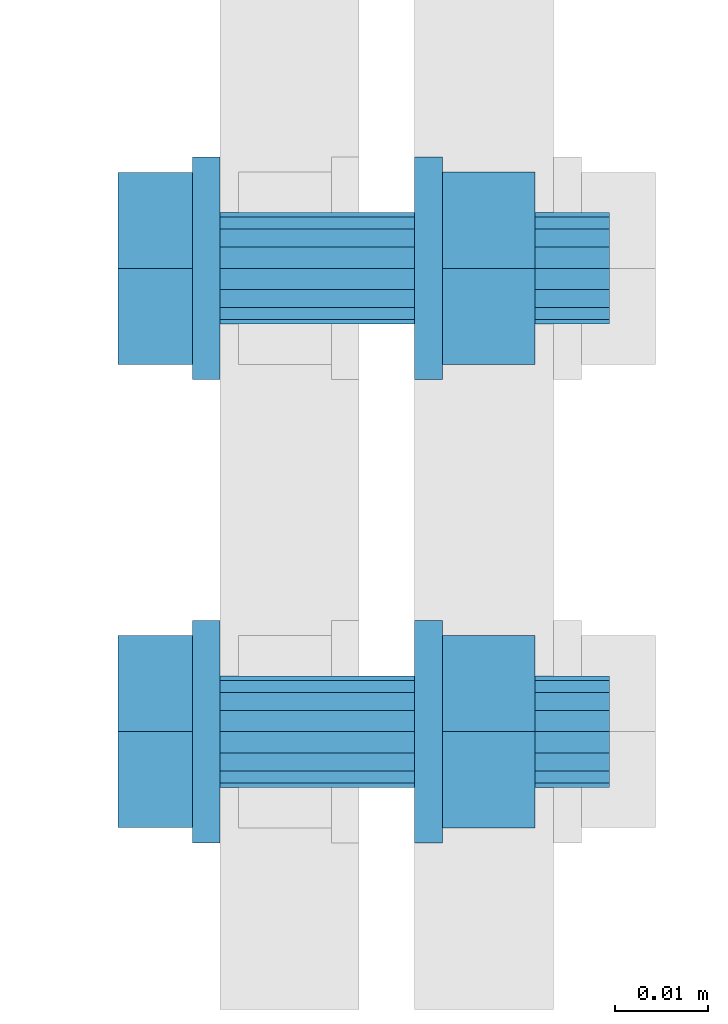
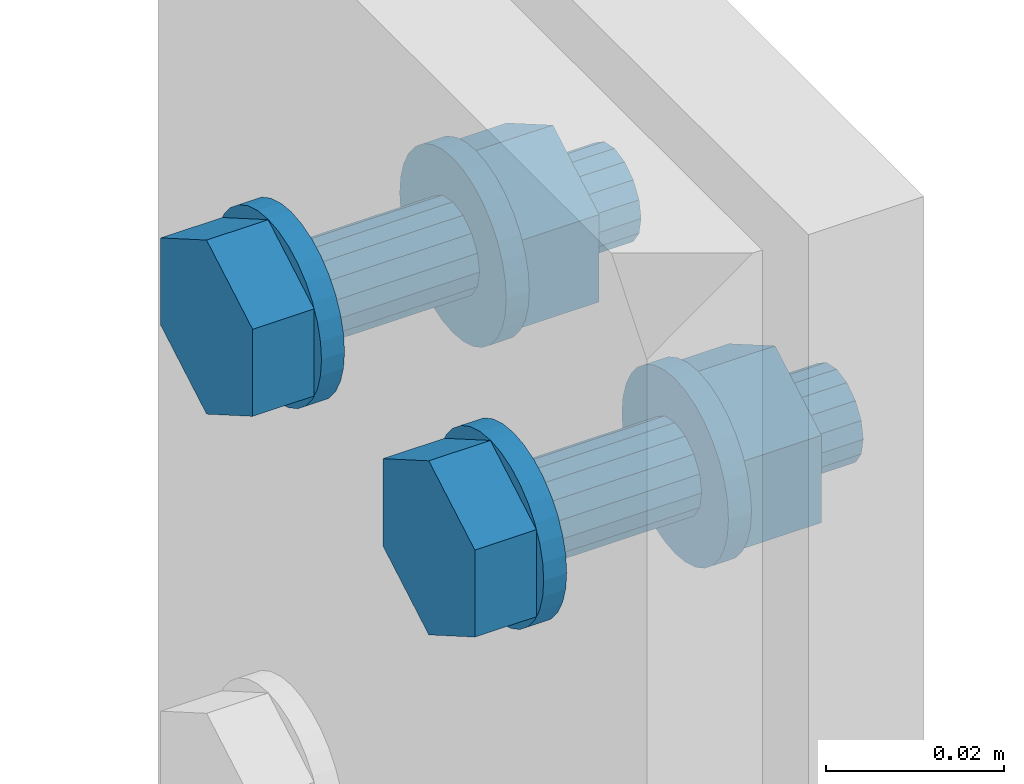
# One storey, part 8 of 13: 2 mechanical fasteners.
"""IFC4X3_ADD2 building model written with IfcOpenShell, lengths in millimetres."""

from ifc_helpers import new_model, entity, si_unit, converted_unit, derived_unit, direction, origin, place, context, project, spatial, faceted_brep, element, save


model = new_model("IFC4X3_ADD2")

# Units and contexts
model_context = context("Model", 3, precision=0.01, world=origin(), true_north=direction((6.123233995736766e-17, 1.0)))
plan_context = context("Plan", 3, precision=0.01, world=origin(), true_north=direction((6.123233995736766e-17, 1.0)))
ifc_project = project(units=[si_unit("LENGTHUNIT", "METRE", prefix="MILLI"), converted_unit("PLANEANGLEUNIT", "DEGREE", entity("IfcPlaneAngleMeasure", 0.017453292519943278), si_unit("PLANEANGLEUNIT", "RADIAN"), dimensions=[0, 0, 0, 0, 0, 0, 0]), si_unit("AREAUNIT", "SQUARE_METRE"), si_unit("VOLUMEUNIT", "CUBIC_METRE"), derived_unit("THERMALTRANSMITTANCEUNIT", [(si_unit("MASSUNIT", "GRAM", prefix="KILO"), 1), (si_unit("THERMODYNAMICTEMPERATUREUNIT", "KELVIN"), -1), (si_unit("TIMEUNIT", "SECOND"), -3)]), derived_unit("USERDEFINED", [(si_unit("MASSUNIT", "GRAM", prefix="KILO"), 1), (si_unit("THERMODYNAMICTEMPERATUREUNIT", "KELVIN"), -1), (si_unit("TIMEUNIT", "SECOND"), -2)]), derived_unit("THERMALRESISTANCEUNIT", [(si_unit("MASSUNIT", "GRAM", prefix="KILO"), -1), (si_unit("TIMEUNIT", "SECOND"), 3), (si_unit("THERMODYNAMICTEMPERATUREUNIT", "KELVIN"), 1)]), si_unit("MASSUNIT", "GRAM", prefix="KILO"), derived_unit("MOMENTOFINERTIAUNIT", [(si_unit("LENGTHUNIT", "METRE"), 4)]), derived_unit("LINEARFORCEUNIT", [(si_unit("MASSUNIT", "GRAM", prefix="KILO"), 1), (si_unit("TIMEUNIT", "SECOND"), -2)]), derived_unit("WARPINGCONSTANTUNIT", [(si_unit("LENGTHUNIT", "METRE"), 6)]), si_unit("PRESSUREUNIT", "PASCAL"), derived_unit("MASSDENSITYUNIT", [(si_unit("MASSUNIT", "GRAM", prefix="KILO"), 1), (si_unit("LENGTHUNIT", "METRE"), -3)]), derived_unit("MODULUSOFELASTICITYUNIT", [(si_unit("MASSUNIT", "GRAM", prefix="KILO"), 1), (si_unit("TIMEUNIT", "SECOND"), -2), (si_unit("LENGTHUNIT", "METRE"), -1)]), derived_unit("THERMALEXPANSIONCOEFFICIENTUNIT", [(si_unit("THERMODYNAMICTEMPERATUREUNIT", "KELVIN"), -1)]), derived_unit("VAPORPERMEABILITYUNIT", [(si_unit("LENGTHUNIT", "METRE"), -1), (si_unit("TIMEUNIT", "SECOND"), 1)]), derived_unit("USERDEFINED", [(si_unit("MASSUNIT", "GRAM", prefix="KILO"), 1), (si_unit("TIMEUNIT", "SECOND"), -3), (si_unit("LENGTHUNIT", "METRE"), 3), (si_unit("ELECTRICCURRENTUNIT", "AMPERE"), -2)]), derived_unit("SPECIFICHEATCAPACITYUNIT", [(si_unit("THERMODYNAMICTEMPERATUREUNIT", "KELVIN"), -1), (si_unit("TIMEUNIT", "SECOND"), -2), (si_unit("LENGTHUNIT", "METRE"), 2)]), derived_unit("THERMALCONDUCTANCEUNIT", [(si_unit("MASSUNIT", "GRAM", prefix="KILO"), 1), (si_unit("THERMODYNAMICTEMPERATUREUNIT", "KELVIN"), -1), (si_unit("TIMEUNIT", "SECOND"), -3), (si_unit("LENGTHUNIT", "METRE"), 1)])], contexts=[model_context, plan_context])

# Site, building, storey
site_placement = place(None, origin())
site = spatial("IfcSite", under=ifc_project, at=site_placement, Name="Default", CompositionType="ELEMENT")
building_placement = place(site_placement, origin())
building = spatial("IfcBuilding", under=site, at=building_placement, Name="Complex structure", CompositionType="ELEMENT")
storey_placement = place(building_placement, origin())
storey = spatial("IfcBuildingStorey", under=building, at=storey_placement, Name="Level 00", CompositionType="ELEMENT", Elevation=0.0)

# Mechanical fasteners
mechanical_fastener_1_placement = place(storey_placement, origin())
element("IfcMechanicalFastener", 1, at=mechanical_fastener_1_placement, inside=storey, ObjectType="Bolt#1", NominalDiameter=12.0, NominalLength=45.0, context=model_context, shape_type="Brep", body=[
    faceted_brep([(-5166.221550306, -1295.866703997, 2965.0), (-5163.221550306, -1295.866703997, 2965.0), (-5163.221550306, -1296.097280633, 2962.658916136), (-5166.221550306, -1296.097280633, 2962.658916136), (-5163.221550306, -1296.780149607, 2960.407798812), (-5166.221550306, -1296.780149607, 2960.407798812), (-5163.221550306, -1297.88906865, 2958.333157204), (-5166.221550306, -1297.88906865, 2958.333157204), (-5163.221550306, -1299.381422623, 2956.514718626), (-5166.221550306, -1299.381422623, 2956.514718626), (-5163.221550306, -1301.199861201, 2955.022364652), (-5166.221550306, -1301.199861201, 2955.022364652), (-5163.221550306, -1303.274502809, 2953.91344561), (-5166.221550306, -1303.274502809, 2953.91344561), (-5163.221550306, -1305.525620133, 2953.230576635), (-5166.221550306, -1305.525620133, 2953.230576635), (-5163.221550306, -1307.866703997, 2953.0), (-5166.221550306, -1307.866703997, 2953.0), (-5163.221550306, -1310.207787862, 2953.230576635), (-5166.221550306, -1310.207787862, 2953.230576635), (-5163.221550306, -1312.458905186, 2953.91344561), (-5166.221550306, -1312.458905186, 2953.91344561), (-5163.221550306, -1314.533546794, 2955.022364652), (-5166.221550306, -1314.533546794, 2955.022364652), (-5163.221550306, -1316.351985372, 2956.514718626), (-5166.221550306, -1316.351985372, 2956.514718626), (-5163.221550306, -1317.844339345, 2958.333157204), (-5166.221550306, -1317.844339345, 2958.333157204), (-5163.221550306, -1318.953258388, 2960.407798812), (-5166.221550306, -1318.953258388, 2960.407798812), (-5163.221550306, -1319.636127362, 2962.658916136), (-5166.221550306, -1319.636127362, 2962.658916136), (-5163.221550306, -1319.866703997, 2965.0), (-5166.221550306, -1319.866703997, 2965.0), (-5163.221550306, -1319.636127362, 2967.341083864), (-5166.221550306, -1319.636127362, 2967.341083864), (-5163.221550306, -1318.953258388, 2969.592201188), (-5166.221550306, -1318.953258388, 2969.592201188), (-5163.221550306, -1317.844339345, 2971.666842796), (-5166.221550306, -1317.844339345, 2971.666842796), (-5163.221550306, -1316.351985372, 2973.485281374), (-5166.221550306, -1316.351985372, 2973.485281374), (-5163.221550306, -1314.533546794, 2974.977635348), (-5166.221550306, -1314.533546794, 2974.977635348), (-5163.221550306, -1312.458905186, 2976.08655439), (-5166.221550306, -1312.458905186, 2976.08655439), (-5163.221550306, -1310.207787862, 2976.769423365), (-5166.221550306, -1310.207787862, 2976.769423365), (-5163.221550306, -1307.866703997, 2977.0), (-5166.221550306, -1307.866703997, 2977.0), (-5163.221550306, -1305.525620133, 2976.769423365), (-5166.221550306, -1305.525620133, 2976.769423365), (-5163.221550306, -1303.274502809, 2976.08655439), (-5166.221550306, -1303.274502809, 2976.08655439), (-5163.221550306, -1301.199861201, 2974.977635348), (-5166.221550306, -1301.199861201, 2974.977635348), (-5163.221550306, -1299.381422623, 2973.485281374), (-5166.221550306, -1299.381422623, 2973.485281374), (-5163.221550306, -1297.88906865, 2971.666842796), (-5166.221550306, -1297.88906865, 2971.666842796), (-5163.221550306, -1296.780149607, 2969.592201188), (-5166.221550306, -1296.780149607, 2969.592201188), (-5163.221550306, -1296.097280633, 2967.341083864), (-5166.221550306, -1296.097280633, 2967.341083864)], [[[0, 1, 2, 3]], [[3, 2, 4, 5]], [[5, 4, 6, 7]], [[7, 6, 8, 9]], [[9, 8, 10, 11]], [[11, 10, 12, 13]], [[13, 12, 14, 15]], [[15, 14, 16, 17]], [[17, 16, 18, 19]], [[19, 18, 20, 21]], [[21, 20, 22, 23]], [[23, 22, 24, 25]], [[25, 24, 26, 27]], [[27, 26, 28, 29]], [[29, 28, 30, 31]], [[31, 30, 32, 33]], [[33, 32, 34, 35]], [[35, 34, 36, 37]], [[37, 36, 38, 39]], [[39, 38, 40, 41]], [[41, 40, 42, 43]], [[43, 42, 44, 45]], [[45, 44, 46, 47]], [[47, 46, 48, 49]], [[49, 48, 50, 51]], [[51, 50, 52, 53]], [[53, 52, 54, 55]], [[55, 54, 56, 57]], [[57, 56, 58, 59]], [[59, 58, 60, 61]], [[61, 60, 62, 63]], [[63, 62, 1, 0]], [[0, 3, 5, 7, 9, 11, 13, 15, 17, 19, 21, 23, 25, 27, 29, 31, 33, 35, 37, 39, 41, 43, 45, 47, 49, 51, 53, 55, 57, 59, 61, 63]], [[1, 62, 60, 58, 56, 54, 52, 50, 48, 46, 44, 42, 40, 38, 36, 34, 32, 30, 28, 26, 24, 22, 20, 18, 16, 14, 12, 10, 8, 6, 4, 2]]]),
    faceted_brep([(-5166.221550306, -1318.2200377, 2959.0225), (-5174.221550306, -1318.2200377, 2959.0225), (-5174.221550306, -1307.866703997, 2953.045), (-5166.221550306, -1307.866703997, 2953.045), (-5174.221550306, -1297.513370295, 2959.0225), (-5166.221550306, -1297.513370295, 2959.0225), (-5174.221550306, -1297.513370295, 2970.9775), (-5166.221550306, -1297.513370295, 2970.9775), (-5174.221550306, -1307.866703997, 2976.955), (-5166.221550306, -1307.866703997, 2976.955), (-5174.221550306, -1318.2200377, 2970.9775), (-5166.221550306, -1318.2200377, 2970.9775)], [[[0, 1, 2, 3]], [[3, 2, 4, 5]], [[5, 4, 6, 7]], [[7, 6, 8, 9]], [[9, 8, 10, 11]], [[11, 10, 1, 0]], [[4, 2, 1, 10, 8, 6]], [[0, 3, 5, 7, 9, 11]]]),
    faceted_brep([(-5163.221550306, -1301.866703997, 2965.0), (-5142.221550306, -1301.866703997, 2965.0), (-5142.221550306, -1302.323426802, 2962.703899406), (-5163.221550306, -1302.323426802, 2962.703899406), (-5142.221550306, -1303.62406331, 2960.757359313), (-5163.221550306, -1303.62406331, 2960.757359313), (-5142.221550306, -1305.570603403, 2959.456722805), (-5163.221550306, -1305.570603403, 2959.456722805), (-5142.221550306, -1307.866703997, 2959.0), (-5163.221550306, -1307.866703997, 2959.0), (-5142.221550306, -1310.162804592, 2959.456722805), (-5163.221550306, -1310.162804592, 2959.456722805), (-5142.221550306, -1312.109344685, 2960.757359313), (-5163.221550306, -1312.109344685, 2960.757359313), (-5142.221550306, -1313.409981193, 2962.703899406), (-5163.221550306, -1313.409981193, 2962.703899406), (-5142.221550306, -1313.866703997, 2965.0), (-5163.221550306, -1313.866703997, 2965.0), (-5142.221550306, -1313.409981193, 2967.296100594), (-5163.221550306, -1313.409981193, 2967.296100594), (-5142.221550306, -1312.109344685, 2969.242640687), (-5163.221550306, -1312.109344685, 2969.242640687), (-5142.221550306, -1310.162804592, 2970.543277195), (-5163.221550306, -1310.162804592, 2970.543277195), (-5142.221550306, -1307.866703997, 2971.0), (-5163.221550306, -1307.866703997, 2971.0), (-5142.221550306, -1305.570603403, 2970.543277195), (-5163.221550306, -1305.570603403, 2970.543277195), (-5142.221550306, -1303.62406331, 2969.242640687), (-5163.221550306, -1303.62406331, 2969.242640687), (-5142.221550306, -1302.323426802, 2967.296100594), (-5163.221550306, -1302.323426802, 2967.296100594)], [[[0, 1, 2, 3]], [[3, 2, 4, 5]], [[5, 4, 6, 7]], [[7, 6, 8, 9]], [[9, 8, 10, 11]], [[11, 10, 12, 13]], [[13, 12, 14, 15]], [[15, 14, 16, 17]], [[17, 16, 18, 19]], [[19, 18, 20, 21]], [[21, 20, 22, 23]], [[23, 22, 24, 25]], [[25, 24, 26, 27]], [[27, 26, 28, 29]], [[29, 28, 30, 31]], [[31, 30, 1, 0]], [[0, 3, 5, 7, 9, 11, 13, 15, 17, 19, 21, 23, 25, 27, 29, 31]], [[1, 30, 28, 26, 24, 22, 20, 18, 16, 14, 12, 10, 8, 6, 4, 2]]]),
    faceted_brep([(-5142.221550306, -1295.866703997, 2965.0), (-5139.221550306, -1295.866703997, 2965.0), (-5139.221550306, -1296.097280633, 2962.658916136), (-5142.221550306, -1296.097280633, 2962.658916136), (-5139.221550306, -1296.780149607, 2960.407798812), (-5142.221550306, -1296.780149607, 2960.407798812), (-5139.221550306, -1297.88906865, 2958.333157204), (-5142.221550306, -1297.88906865, 2958.333157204), (-5139.221550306, -1299.381422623, 2956.514718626), (-5142.221550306, -1299.381422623, 2956.514718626), (-5139.221550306, -1301.199861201, 2955.022364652), (-5142.221550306, -1301.199861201, 2955.022364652), (-5139.221550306, -1303.274502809, 2953.91344561), (-5142.221550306, -1303.274502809, 2953.91344561), (-5139.221550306, -1305.525620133, 2953.230576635), (-5142.221550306, -1305.525620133, 2953.230576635), (-5139.221550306, -1307.866703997, 2953.0), (-5142.221550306, -1307.866703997, 2953.0), (-5139.221550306, -1310.207787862, 2953.230576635), (-5142.221550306, -1310.207787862, 2953.230576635), (-5139.221550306, -1312.458905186, 2953.91344561), (-5142.221550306, -1312.458905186, 2953.91344561), (-5139.221550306, -1314.533546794, 2955.022364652), (-5142.221550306, -1314.533546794, 2955.022364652), (-5139.221550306, -1316.351985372, 2956.514718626), (-5142.221550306, -1316.351985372, 2956.514718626), (-5139.221550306, -1317.844339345, 2958.333157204), (-5142.221550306, -1317.844339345, 2958.333157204), (-5139.221550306, -1318.953258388, 2960.407798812), (-5142.221550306, -1318.953258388, 2960.407798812), (-5139.221550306, -1319.636127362, 2962.658916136), (-5142.221550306, -1319.636127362, 2962.658916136), (-5139.221550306, -1319.866703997, 2965.0), (-5142.221550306, -1319.866703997, 2965.0), (-5139.221550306, -1319.636127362, 2967.341083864), (-5142.221550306, -1319.636127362, 2967.341083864), (-5139.221550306, -1318.953258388, 2969.592201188), (-5142.221550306, -1318.953258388, 2969.592201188), (-5139.221550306, -1317.844339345, 2971.666842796), (-5142.221550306, -1317.844339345, 2971.666842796), (-5139.221550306, -1316.351985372, 2973.485281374), (-5142.221550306, -1316.351985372, 2973.485281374), (-5139.221550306, -1314.533546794, 2974.977635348), (-5142.221550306, -1314.533546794, 2974.977635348), (-5139.221550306, -1312.458905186, 2976.08655439), (-5142.221550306, -1312.458905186, 2976.08655439), (-5139.221550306, -1310.207787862, 2976.769423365), (-5142.221550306, -1310.207787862, 2976.769423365), (-5139.221550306, -1307.866703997, 2977.0), (-5142.221550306, -1307.866703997, 2977.0), (-5139.221550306, -1305.525620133, 2976.769423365), (-5142.221550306, -1305.525620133, 2976.769423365), (-5139.221550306, -1303.274502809, 2976.08655439), (-5142.221550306, -1303.274502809, 2976.08655439), (-5139.221550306, -1301.199861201, 2974.977635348), (-5142.221550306, -1301.199861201, 2974.977635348), (-5139.221550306, -1299.381422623, 2973.485281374), (-5142.221550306, -1299.381422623, 2973.485281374), (-5139.221550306, -1297.88906865, 2971.666842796), (-5142.221550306, -1297.88906865, 2971.666842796), (-5139.221550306, -1296.780149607, 2969.592201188), (-5142.221550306, -1296.780149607, 2969.592201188), (-5139.221550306, -1296.097280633, 2967.341083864), (-5142.221550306, -1296.097280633, 2967.341083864)], [[[0, 1, 2, 3]], [[3, 2, 4, 5]], [[5, 4, 6, 7]], [[7, 6, 8, 9]], [[9, 8, 10, 11]], [[11, 10, 12, 13]], [[13, 12, 14, 15]], [[15, 14, 16, 17]], [[17, 16, 18, 19]], [[19, 18, 20, 21]], [[21, 20, 22, 23]], [[23, 22, 24, 25]], [[25, 24, 26, 27]], [[27, 26, 28, 29]], [[29, 28, 30, 31]], [[31, 30, 32, 33]], [[33, 32, 34, 35]], [[35, 34, 36, 37]], [[37, 36, 38, 39]], [[39, 38, 40, 41]], [[41, 40, 42, 43]], [[43, 42, 44, 45]], [[45, 44, 46, 47]], [[47, 46, 48, 49]], [[49, 48, 50, 51]], [[51, 50, 52, 53]], [[53, 52, 54, 55]], [[55, 54, 56, 57]], [[57, 56, 58, 59]], [[59, 58, 60, 61]], [[61, 60, 62, 63]], [[63, 62, 1, 0]], [[0, 3, 5, 7, 9, 11, 13, 15, 17, 19, 21, 23, 25, 27, 29, 31, 33, 35, 37, 39, 41, 43, 45, 47, 49, 51, 53, 55, 57, 59, 61, 63]], [[1, 62, 60, 58, 56, 54, 52, 50, 48, 46, 44, 42, 40, 38, 36, 34, 32, 30, 28, 26, 24, 22, 20, 18, 16, 14, 12, 10, 8, 6, 4, 2]]]),
    faceted_brep([(-5129.221550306, -1318.259008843, 2959.0), (-5139.221550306, -1318.259008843, 2959.0), (-5139.221550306, -1307.866703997, 2953.0), (-5129.221550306, -1307.866703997, 2953.0), (-5139.221550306, -1297.474399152, 2959.0), (-5129.221550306, -1297.474399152, 2959.0), (-5139.221550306, -1297.474399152, 2971.0), (-5129.221550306, -1297.474399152, 2971.0), (-5139.221550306, -1307.866703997, 2977.0), (-5129.221550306, -1307.866703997, 2977.0), (-5139.221550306, -1318.259008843, 2971.0), (-5129.221550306, -1318.259008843, 2971.0)], [[[0, 1, 2, 3]], [[3, 2, 4, 5]], [[5, 4, 6, 7]], [[7, 6, 8, 9]], [[9, 8, 10, 11]], [[11, 10, 1, 0]], [[4, 2, 1, 10, 8, 6]], [[0, 3, 5, 7, 9, 11]]]),
    faceted_brep([(-5129.221550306, -1301.866703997, 2965.0), (-5121.221550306, -1301.866703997, 2965.0), (-5121.221550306, -1302.323426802, 2962.703899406), (-5129.221550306, -1302.323426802, 2962.703899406), (-5121.221550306, -1303.62406331, 2960.757359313), (-5129.221550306, -1303.62406331, 2960.757359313), (-5121.221550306, -1305.570603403, 2959.456722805), (-5129.221550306, -1305.570603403, 2959.456722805), (-5121.221550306, -1307.866703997, 2959.0), (-5129.221550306, -1307.866703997, 2959.0), (-5121.221550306, -1310.162804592, 2959.456722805), (-5129.221550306, -1310.162804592, 2959.456722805), (-5121.221550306, -1312.109344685, 2960.757359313), (-5129.221550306, -1312.109344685, 2960.757359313), (-5121.221550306, -1313.409981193, 2962.703899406), (-5129.221550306, -1313.409981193, 2962.703899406), (-5121.221550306, -1313.866703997, 2965.0), (-5129.221550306, -1313.866703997, 2965.0), (-5121.221550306, -1313.409981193, 2967.296100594), (-5129.221550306, -1313.409981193, 2967.296100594), (-5121.221550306, -1312.109344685, 2969.242640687), (-5129.221550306, -1312.109344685, 2969.242640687), (-5121.221550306, -1310.162804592, 2970.543277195), (-5129.221550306, -1310.162804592, 2970.543277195), (-5121.221550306, -1307.866703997, 2971.0), (-5129.221550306, -1307.866703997, 2971.0), (-5121.221550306, -1305.570603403, 2970.543277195), (-5129.221550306, -1305.570603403, 2970.543277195), (-5121.221550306, -1303.62406331, 2969.242640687), (-5129.221550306, -1303.62406331, 2969.242640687), (-5121.221550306, -1302.323426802, 2967.296100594), (-5129.221550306, -1302.323426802, 2967.296100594)], [[[0, 1, 2, 3]], [[3, 2, 4, 5]], [[5, 4, 6, 7]], [[7, 6, 8, 9]], [[9, 8, 10, 11]], [[11, 10, 12, 13]], [[13, 12, 14, 15]], [[15, 14, 16, 17]], [[17, 16, 18, 19]], [[19, 18, 20, 21]], [[21, 20, 22, 23]], [[23, 22, 24, 25]], [[25, 24, 26, 27]], [[27, 26, 28, 29]], [[29, 28, 30, 31]], [[31, 30, 1, 0]], [[0, 3, 5, 7, 9, 11, 13, 15, 17, 19, 21, 23, 25, 27, 29, 31]], [[1, 30, 28, 26, 24, 22, 20, 18, 16, 14, 12, 10, 8, 6, 4, 2]]]),
])
mechanical_fastener_2_placement = place(storey_placement, origin())
element("IfcMechanicalFastener", 2, at=mechanical_fastener_2_placement, inside=storey, ObjectType="Bolt#2", NominalDiameter=12.0, NominalLength=45.0, context=model_context, shape_type="Brep", body=[
    faceted_brep([(-5166.221550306, -1269.866703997, 2965.0), (-5163.221550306, -1269.866703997, 2965.0), (-5163.221550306, -1269.636127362, 2967.341083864), (-5166.221550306, -1269.636127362, 2967.341083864), (-5163.221550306, -1268.953258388, 2969.592201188), (-5166.221550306, -1268.953258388, 2969.592201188), (-5163.221550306, -1267.844339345, 2971.666842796), (-5166.221550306, -1267.844339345, 2971.666842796), (-5163.221550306, -1266.351985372, 2973.485281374), (-5166.221550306, -1266.351985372, 2973.485281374), (-5163.221550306, -1264.533546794, 2974.977635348), (-5166.221550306, -1264.533546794, 2974.977635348), (-5163.221550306, -1262.458905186, 2976.08655439), (-5166.221550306, -1262.458905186, 2976.08655439), (-5163.221550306, -1260.207787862, 2976.769423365), (-5166.221550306, -1260.207787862, 2976.769423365), (-5163.221550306, -1257.866703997, 2977.0), (-5166.221550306, -1257.866703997, 2977.0), (-5163.221550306, -1255.525620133, 2976.769423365), (-5166.221550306, -1255.525620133, 2976.769423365), (-5163.221550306, -1253.274502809, 2976.08655439), (-5166.221550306, -1253.274502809, 2976.08655439), (-5163.221550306, -1251.199861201, 2974.977635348), (-5166.221550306, -1251.199861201, 2974.977635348), (-5163.221550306, -1249.381422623, 2973.485281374), (-5166.221550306, -1249.381422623, 2973.485281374), (-5163.221550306, -1247.88906865, 2971.666842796), (-5166.221550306, -1247.88906865, 2971.666842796), (-5163.221550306, -1246.780149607, 2969.592201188), (-5166.221550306, -1246.780149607, 2969.592201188), (-5163.221550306, -1246.097280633, 2967.341083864), (-5166.221550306, -1246.097280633, 2967.341083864), (-5163.221550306, -1245.866703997, 2965.0), (-5166.221550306, -1245.866703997, 2965.0), (-5163.221550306, -1246.097280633, 2962.658916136), (-5166.221550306, -1246.097280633, 2962.658916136), (-5163.221550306, -1246.780149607, 2960.407798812), (-5166.221550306, -1246.780149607, 2960.407798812), (-5163.221550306, -1247.88906865, 2958.333157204), (-5166.221550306, -1247.88906865, 2958.333157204), (-5163.221550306, -1249.381422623, 2956.514718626), (-5166.221550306, -1249.381422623, 2956.514718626), (-5163.221550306, -1251.199861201, 2955.022364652), (-5166.221550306, -1251.199861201, 2955.022364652), (-5163.221550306, -1253.274502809, 2953.91344561), (-5166.221550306, -1253.274502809, 2953.91344561), (-5163.221550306, -1255.525620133, 2953.230576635), (-5166.221550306, -1255.525620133, 2953.230576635), (-5163.221550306, -1257.866703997, 2953.0), (-5166.221550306, -1257.866703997, 2953.0), (-5163.221550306, -1260.207787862, 2953.230576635), (-5166.221550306, -1260.207787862, 2953.230576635), (-5163.221550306, -1262.458905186, 2953.91344561), (-5166.221550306, -1262.458905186, 2953.91344561), (-5163.221550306, -1264.533546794, 2955.022364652), (-5166.221550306, -1264.533546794, 2955.022364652), (-5163.221550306, -1266.351985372, 2956.514718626), (-5166.221550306, -1266.351985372, 2956.514718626), (-5163.221550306, -1267.844339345, 2958.333157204), (-5166.221550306, -1267.844339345, 2958.333157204), (-5163.221550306, -1268.953258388, 2960.407798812), (-5166.221550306, -1268.953258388, 2960.407798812), (-5163.221550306, -1269.636127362, 2962.658916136), (-5166.221550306, -1269.636127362, 2962.658916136)], [[[0, 1, 2, 3]], [[3, 2, 4, 5]], [[5, 4, 6, 7]], [[7, 6, 8, 9]], [[9, 8, 10, 11]], [[11, 10, 12, 13]], [[13, 12, 14, 15]], [[15, 14, 16, 17]], [[17, 16, 18, 19]], [[19, 18, 20, 21]], [[21, 20, 22, 23]], [[23, 22, 24, 25]], [[25, 24, 26, 27]], [[27, 26, 28, 29]], [[29, 28, 30, 31]], [[31, 30, 32, 33]], [[33, 32, 34, 35]], [[35, 34, 36, 37]], [[37, 36, 38, 39]], [[39, 38, 40, 41]], [[41, 40, 42, 43]], [[43, 42, 44, 45]], [[45, 44, 46, 47]], [[47, 46, 48, 49]], [[49, 48, 50, 51]], [[51, 50, 52, 53]], [[53, 52, 54, 55]], [[55, 54, 56, 57]], [[57, 56, 58, 59]], [[59, 58, 60, 61]], [[61, 60, 62, 63]], [[63, 62, 1, 0]], [[0, 3, 5, 7, 9, 11, 13, 15, 17, 19, 21, 23, 25, 27, 29, 31, 33, 35, 37, 39, 41, 43, 45, 47, 49, 51, 53, 55, 57, 59, 61, 63]], [[1, 62, 60, 58, 56, 54, 52, 50, 48, 46, 44, 42, 40, 38, 36, 34, 32, 30, 28, 26, 24, 22, 20, 18, 16, 14, 12, 10, 8, 6, 4, 2]]]),
    faceted_brep([(-5166.221550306, -1247.513370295, 2970.9775), (-5174.221550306, -1247.513370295, 2970.9775), (-5174.221550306, -1257.866703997, 2976.955), (-5166.221550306, -1257.866703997, 2976.955), (-5174.221550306, -1268.2200377, 2970.9775), (-5166.221550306, -1268.2200377, 2970.9775), (-5174.221550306, -1268.2200377, 2959.0225), (-5166.221550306, -1268.2200377, 2959.0225), (-5174.221550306, -1257.866703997, 2953.045), (-5166.221550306, -1257.866703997, 2953.045), (-5174.221550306, -1247.513370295, 2959.0225), (-5166.221550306, -1247.513370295, 2959.0225)], [[[0, 1, 2, 3]], [[3, 2, 4, 5]], [[5, 4, 6, 7]], [[7, 6, 8, 9]], [[9, 8, 10, 11]], [[11, 10, 1, 0]], [[4, 2, 1, 10, 8, 6]], [[0, 3, 5, 7, 9, 11]]]),
    faceted_brep([(-5163.221550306, -1263.866703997, 2965.0), (-5142.221550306, -1263.866703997, 2965.0), (-5142.221550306, -1263.409981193, 2967.296100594), (-5163.221550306, -1263.409981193, 2967.296100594), (-5142.221550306, -1262.109344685, 2969.242640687), (-5163.221550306, -1262.109344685, 2969.242640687), (-5142.221550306, -1260.162804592, 2970.543277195), (-5163.221550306, -1260.162804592, 2970.543277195), (-5142.221550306, -1257.866703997, 2971.0), (-5163.221550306, -1257.866703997, 2971.0), (-5142.221550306, -1255.570603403, 2970.543277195), (-5163.221550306, -1255.570603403, 2970.543277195), (-5142.221550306, -1253.62406331, 2969.242640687), (-5163.221550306, -1253.62406331, 2969.242640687), (-5142.221550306, -1252.323426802, 2967.296100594), (-5163.221550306, -1252.323426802, 2967.296100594), (-5142.221550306, -1251.866703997, 2965.0), (-5163.221550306, -1251.866703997, 2965.0), (-5142.221550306, -1252.323426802, 2962.703899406), (-5163.221550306, -1252.323426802, 2962.703899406), (-5142.221550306, -1253.62406331, 2960.757359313), (-5163.221550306, -1253.62406331, 2960.757359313), (-5142.221550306, -1255.570603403, 2959.456722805), (-5163.221550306, -1255.570603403, 2959.456722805), (-5142.221550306, -1257.866703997, 2959.0), (-5163.221550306, -1257.866703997, 2959.0), (-5142.221550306, -1260.162804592, 2959.456722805), (-5163.221550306, -1260.162804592, 2959.456722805), (-5142.221550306, -1262.109344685, 2960.757359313), (-5163.221550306, -1262.109344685, 2960.757359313), (-5142.221550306, -1263.409981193, 2962.703899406), (-5163.221550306, -1263.409981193, 2962.703899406)], [[[0, 1, 2, 3]], [[3, 2, 4, 5]], [[5, 4, 6, 7]], [[7, 6, 8, 9]], [[9, 8, 10, 11]], [[11, 10, 12, 13]], [[13, 12, 14, 15]], [[15, 14, 16, 17]], [[17, 16, 18, 19]], [[19, 18, 20, 21]], [[21, 20, 22, 23]], [[23, 22, 24, 25]], [[25, 24, 26, 27]], [[27, 26, 28, 29]], [[29, 28, 30, 31]], [[31, 30, 1, 0]], [[0, 3, 5, 7, 9, 11, 13, 15, 17, 19, 21, 23, 25, 27, 29, 31]], [[1, 30, 28, 26, 24, 22, 20, 18, 16, 14, 12, 10, 8, 6, 4, 2]]]),
    faceted_brep([(-5142.221550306, -1269.866703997, 2965.0), (-5139.221550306, -1269.866703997, 2965.0), (-5139.221550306, -1269.636127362, 2967.341083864), (-5142.221550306, -1269.636127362, 2967.341083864), (-5139.221550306, -1268.953258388, 2969.592201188), (-5142.221550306, -1268.953258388, 2969.592201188), (-5139.221550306, -1267.844339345, 2971.666842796), (-5142.221550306, -1267.844339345, 2971.666842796), (-5139.221550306, -1266.351985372, 2973.485281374), (-5142.221550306, -1266.351985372, 2973.485281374), (-5139.221550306, -1264.533546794, 2974.977635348), (-5142.221550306, -1264.533546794, 2974.977635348), (-5139.221550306, -1262.458905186, 2976.08655439), (-5142.221550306, -1262.458905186, 2976.08655439), (-5139.221550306, -1260.207787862, 2976.769423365), (-5142.221550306, -1260.207787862, 2976.769423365), (-5139.221550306, -1257.866703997, 2977.0), (-5142.221550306, -1257.866703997, 2977.0), (-5139.221550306, -1255.525620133, 2976.769423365), (-5142.221550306, -1255.525620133, 2976.769423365), (-5139.221550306, -1253.274502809, 2976.08655439), (-5142.221550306, -1253.274502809, 2976.08655439), (-5139.221550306, -1251.199861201, 2974.977635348), (-5142.221550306, -1251.199861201, 2974.977635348), (-5139.221550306, -1249.381422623, 2973.485281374), (-5142.221550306, -1249.381422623, 2973.485281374), (-5139.221550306, -1247.88906865, 2971.666842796), (-5142.221550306, -1247.88906865, 2971.666842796), (-5139.221550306, -1246.780149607, 2969.592201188), (-5142.221550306, -1246.780149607, 2969.592201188), (-5139.221550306, -1246.097280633, 2967.341083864), (-5142.221550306, -1246.097280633, 2967.341083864), (-5139.221550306, -1245.866703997, 2965.0), (-5142.221550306, -1245.866703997, 2965.0), (-5139.221550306, -1246.097280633, 2962.658916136), (-5142.221550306, -1246.097280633, 2962.658916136), (-5139.221550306, -1246.780149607, 2960.407798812), (-5142.221550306, -1246.780149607, 2960.407798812), (-5139.221550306, -1247.88906865, 2958.333157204), (-5142.221550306, -1247.88906865, 2958.333157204), (-5139.221550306, -1249.381422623, 2956.514718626), (-5142.221550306, -1249.381422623, 2956.514718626), (-5139.221550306, -1251.199861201, 2955.022364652), (-5142.221550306, -1251.199861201, 2955.022364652), (-5139.221550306, -1253.274502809, 2953.91344561), (-5142.221550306, -1253.274502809, 2953.91344561), (-5139.221550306, -1255.525620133, 2953.230576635), (-5142.221550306, -1255.525620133, 2953.230576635), (-5139.221550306, -1257.866703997, 2953.0), (-5142.221550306, -1257.866703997, 2953.0), (-5139.221550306, -1260.207787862, 2953.230576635), (-5142.221550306, -1260.207787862, 2953.230576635), (-5139.221550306, -1262.458905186, 2953.91344561), (-5142.221550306, -1262.458905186, 2953.91344561), (-5139.221550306, -1264.533546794, 2955.022364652), (-5142.221550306, -1264.533546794, 2955.022364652), (-5139.221550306, -1266.351985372, 2956.514718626), (-5142.221550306, -1266.351985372, 2956.514718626), (-5139.221550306, -1267.844339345, 2958.333157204), (-5142.221550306, -1267.844339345, 2958.333157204), (-5139.221550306, -1268.953258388, 2960.407798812), (-5142.221550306, -1268.953258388, 2960.407798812), (-5139.221550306, -1269.636127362, 2962.658916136), (-5142.221550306, -1269.636127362, 2962.658916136)], [[[0, 1, 2, 3]], [[3, 2, 4, 5]], [[5, 4, 6, 7]], [[7, 6, 8, 9]], [[9, 8, 10, 11]], [[11, 10, 12, 13]], [[13, 12, 14, 15]], [[15, 14, 16, 17]], [[17, 16, 18, 19]], [[19, 18, 20, 21]], [[21, 20, 22, 23]], [[23, 22, 24, 25]], [[25, 24, 26, 27]], [[27, 26, 28, 29]], [[29, 28, 30, 31]], [[31, 30, 32, 33]], [[33, 32, 34, 35]], [[35, 34, 36, 37]], [[37, 36, 38, 39]], [[39, 38, 40, 41]], [[41, 40, 42, 43]], [[43, 42, 44, 45]], [[45, 44, 46, 47]], [[47, 46, 48, 49]], [[49, 48, 50, 51]], [[51, 50, 52, 53]], [[53, 52, 54, 55]], [[55, 54, 56, 57]], [[57, 56, 58, 59]], [[59, 58, 60, 61]], [[61, 60, 62, 63]], [[63, 62, 1, 0]], [[0, 3, 5, 7, 9, 11, 13, 15, 17, 19, 21, 23, 25, 27, 29, 31, 33, 35, 37, 39, 41, 43, 45, 47, 49, 51, 53, 55, 57, 59, 61, 63]], [[1, 62, 60, 58, 56, 54, 52, 50, 48, 46, 44, 42, 40, 38, 36, 34, 32, 30, 28, 26, 24, 22, 20, 18, 16, 14, 12, 10, 8, 6, 4, 2]]]),
    faceted_brep([(-5129.221550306, -1247.474399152, 2971.0), (-5139.221550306, -1247.474399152, 2971.0), (-5139.221550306, -1257.866703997, 2977.0), (-5129.221550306, -1257.866703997, 2977.0), (-5139.221550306, -1268.259008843, 2971.0), (-5129.221550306, -1268.259008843, 2971.0), (-5139.221550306, -1268.259008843, 2959.0), (-5129.221550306, -1268.259008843, 2959.0), (-5139.221550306, -1257.866703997, 2953.0), (-5129.221550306, -1257.866703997, 2953.0), (-5139.221550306, -1247.474399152, 2959.0), (-5129.221550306, -1247.474399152, 2959.0)], [[[0, 1, 2, 3]], [[3, 2, 4, 5]], [[5, 4, 6, 7]], [[7, 6, 8, 9]], [[9, 8, 10, 11]], [[11, 10, 1, 0]], [[4, 2, 1, 10, 8, 6]], [[0, 3, 5, 7, 9, 11]]]),
    faceted_brep([(-5129.221550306, -1263.866703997, 2965.0), (-5121.221550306, -1263.866703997, 2965.0), (-5121.221550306, -1263.409981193, 2967.296100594), (-5129.221550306, -1263.409981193, 2967.296100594), (-5121.221550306, -1262.109344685, 2969.242640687), (-5129.221550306, -1262.109344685, 2969.242640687), (-5121.221550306, -1260.162804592, 2970.543277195), (-5129.221550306, -1260.162804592, 2970.543277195), (-5121.221550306, -1257.866703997, 2971.0), (-5129.221550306, -1257.866703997, 2971.0), (-5121.221550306, -1255.570603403, 2970.543277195), (-5129.221550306, -1255.570603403, 2970.543277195), (-5121.221550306, -1253.62406331, 2969.242640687), (-5129.221550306, -1253.62406331, 2969.242640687), (-5121.221550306, -1252.323426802, 2967.296100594), (-5129.221550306, -1252.323426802, 2967.296100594), (-5121.221550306, -1251.866703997, 2965.0), (-5129.221550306, -1251.866703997, 2965.0), (-5121.221550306, -1252.323426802, 2962.703899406), (-5129.221550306, -1252.323426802, 2962.703899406), (-5121.221550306, -1253.62406331, 2960.757359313), (-5129.221550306, -1253.62406331, 2960.757359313), (-5121.221550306, -1255.570603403, 2959.456722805), (-5129.221550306, -1255.570603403, 2959.456722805), (-5121.221550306, -1257.866703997, 2959.0), (-5129.221550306, -1257.866703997, 2959.0), (-5121.221550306, -1260.162804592, 2959.456722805), (-5129.221550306, -1260.162804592, 2959.456722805), (-5121.221550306, -1262.109344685, 2960.757359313), (-5129.221550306, -1262.109344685, 2960.757359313), (-5121.221550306, -1263.409981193, 2962.703899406), (-5129.221550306, -1263.409981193, 2962.703899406)], [[[0, 1, 2, 3]], [[3, 2, 4, 5]], [[5, 4, 6, 7]], [[7, 6, 8, 9]], [[9, 8, 10, 11]], [[11, 10, 12, 13]], [[13, 12, 14, 15]], [[15, 14, 16, 17]], [[17, 16, 18, 19]], [[19, 18, 20, 21]], [[21, 20, 22, 23]], [[23, 22, 24, 25]], [[25, 24, 26, 27]], [[27, 26, 28, 29]], [[29, 28, 30, 31]], [[31, 30, 1, 0]], [[0, 3, 5, 7, 9, 11, 13, 15, 17, 19, 21, 23, 25, 27, 29, 31]], [[1, 30, 28, 26, 24, 22, 20, 18, 16, 14, 12, 10, 8, 6, 4, 2]]]),
])

save(model, "model.ifc")
